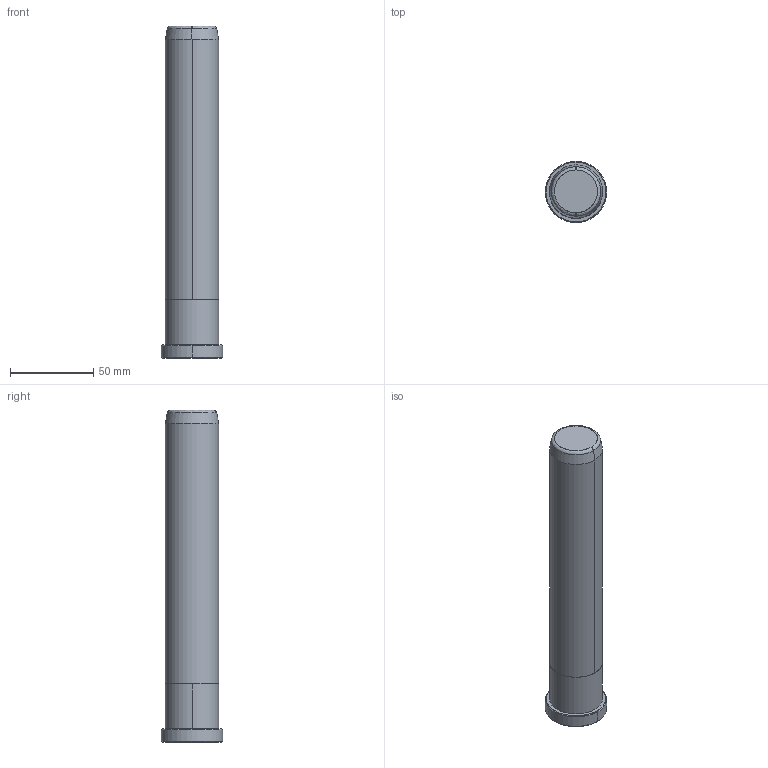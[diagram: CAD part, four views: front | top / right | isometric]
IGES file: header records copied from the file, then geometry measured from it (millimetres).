
Start section: START RECORD GO HERE.
Global section: file name: B80832200.igs; native system: DASSAULT SYSTEMES CATIA V5 R20 - www.3ds.com; preprocessor: CATIA Version 5 Release 20 ; author: Utente; organization: NB04-ASUS; date: 20200419.164724; units: millimetre
Bounding box: 37 x 37 x 200 mm (x, y, z)
Surface area: 22103 mm2 (no closed solid volume)
Topology: 0 solids, 0 shells, 20 faces, 80 edges, 80 vertices
Faces by surface type: revolution 16, plane 4
